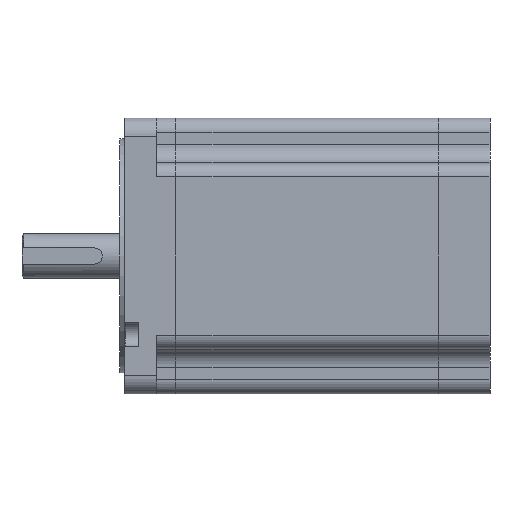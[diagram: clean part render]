
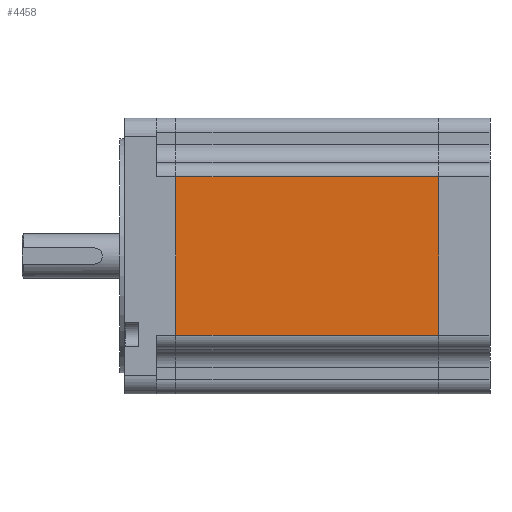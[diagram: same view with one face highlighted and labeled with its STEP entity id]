
A CAD part, left-side view. The second image highlights one B-rep face of the part: STEP entity #4458.
In plain terms, the highlighted planar face has unit normal (-1, 0, 0).
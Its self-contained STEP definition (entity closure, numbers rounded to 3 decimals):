
#55 = PLANE ( 'NONE',  #4541 ) ;
#125 = EDGE_CURVE ( 'NONE', #2650, #1260, #3471, .T. ) ;
#200 = VECTOR ( 'NONE', #2953, 1000. ) ;
#264 = CARTESIAN_POINT ( 'NONE',  ( -43., -6.008, 37.3 ) ) ;
#585 = FACE_OUTER_BOUND ( 'NONE', #831, .T. ) ;
#790 = LINE ( 'NONE', #264, #3336 ) ;
#831 = EDGE_LOOP ( 'NONE', ( #1086, #3968, #2489, #5188 ) ) ;
#1086 = ORIENTED_EDGE ( 'NONE', *, *, #125, .F. ) ;
#1260 = VERTEX_POINT ( 'NONE', #5779 ) ;
#1424 = VERTEX_POINT ( 'NONE', #5986 ) ;
#1565 = DIRECTION ( 'NONE',  ( 0., 1., 0. ) ) ;
#1686 = DIRECTION ( 'NONE',  ( 0., 0., -1. ) ) ;
#2200 = DIRECTION ( 'NONE',  ( 1., 0., 0. ) ) ;
#2386 = EDGE_CURVE ( 'NONE', #1424, #5875, #790, .T. ) ;
#2413 = DIRECTION ( 'NONE',  ( 0., 0., 1. ) ) ;
#2489 = ORIENTED_EDGE ( 'NONE', *, *, #2386, .F. ) ;
#2500 = EDGE_CURVE ( 'NONE', #1260, #1424, #3590, .T. ) ;
#2650 = VERTEX_POINT ( 'NONE', #5018 ) ;
#2737 = EDGE_CURVE ( 'NONE', #2650, #5875, #2922, .T. ) ;
#2922 = LINE ( 'NONE', #6714, #200 ) ;
#2953 = DIRECTION ( 'NONE',  ( 0., 1., 0. ) ) ;
#3268 = CARTESIAN_POINT ( 'NONE',  ( -43., -104., -24.65 ) ) ;
#3336 = VECTOR ( 'NONE', #2413, 1000. ) ;
#3471 = LINE ( 'NONE', #6549, #4249 ) ;
#3524 = CARTESIAN_POINT ( 'NONE',  ( -43., -6.008, 24.65 ) ) ;
#3590 = LINE ( 'NONE', #3268, #6519 ) ;
#3968 = ORIENTED_EDGE ( 'NONE', *, *, #2737, .T. ) ;
#4249 = VECTOR ( 'NONE', #1686, 1000. ) ;
#4458 = ADVANCED_FACE ( 'NONE', ( #585 ), #55, .F. ) ;
#4541 = AXIS2_PLACEMENT_3D ( 'NONE', #5379, #2200, #6537 ) ;
#5018 = CARTESIAN_POINT ( 'NONE',  ( -43., -87.992, 24.65 ) ) ;
#5188 = ORIENTED_EDGE ( 'NONE', *, *, #2500, .F. ) ;
#5379 = CARTESIAN_POINT ( 'NONE',  ( -43., 10., 37.3 ) ) ;
#5779 = CARTESIAN_POINT ( 'NONE',  ( -43., -87.992, -24.65 ) ) ;
#5875 = VERTEX_POINT ( 'NONE', #3524 ) ;
#5986 = CARTESIAN_POINT ( 'NONE',  ( -43., -6.008, -24.65 ) ) ;
#6519 = VECTOR ( 'NONE', #1565, 1000. ) ;
#6537 = DIRECTION ( 'NONE',  ( 0., 0., -1. ) ) ;
#6549 = CARTESIAN_POINT ( 'NONE',  ( -43., -87.992, 37.3 ) ) ;
#6714 = CARTESIAN_POINT ( 'NONE',  ( -43., -104., 24.65 ) ) ;
